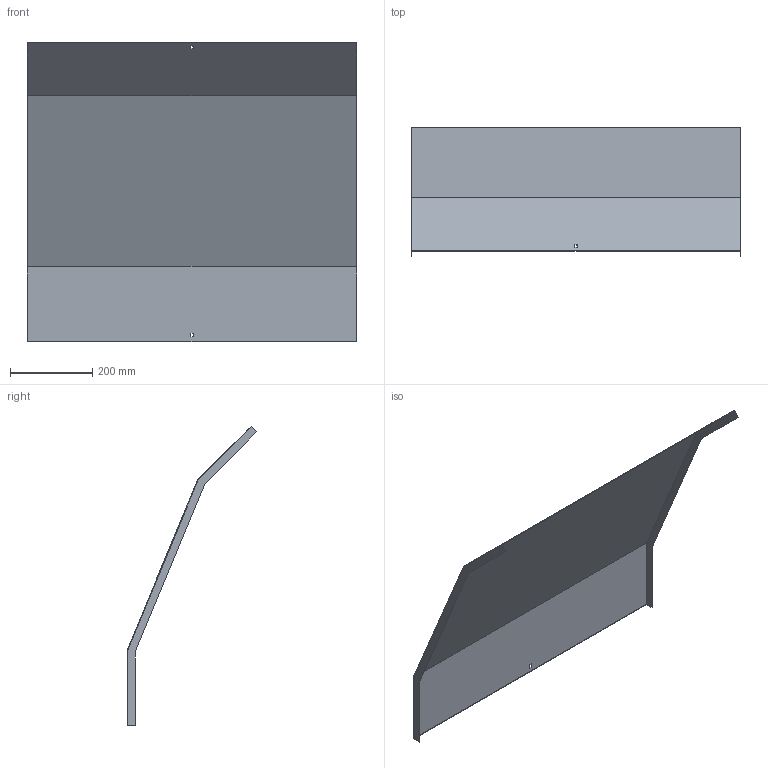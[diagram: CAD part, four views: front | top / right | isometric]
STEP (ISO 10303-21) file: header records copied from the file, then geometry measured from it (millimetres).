
FILE_DESCRIPTION (( 'STEP AP214' ), '1' );
FILE_NAME ('34N5F800.step', '2025-02-21T14:24:59', ( '' ), ( '' ), 'SwSTEP 2.0', 'SolidWorks 2023', '' );
FILE_SCHEMA (( 'AUTOMOTIVE_DESIGN' ));
Length unit declared in the file: millimetre
Products named in the file (1): 34N5F800
Bounding box: 803 x 316.43 x 729.78 mm (x, y, z)
Volume: 1029201.4 mm3; surface area: 1377289.3 mm2
Topology: 1 solids, 1 shells, 26 faces, 72 edges, 48 vertices
Faces by surface type: plane 26
Entity records: 847 total; most frequent: CARTESIAN_POINT 147, ORIENTED_EDGE 144, DIRECTION 126, EDGE_CURVE 72, VECTOR 72, LINE 72, VERTEX_POINT 48, EDGE_LOOP 30
